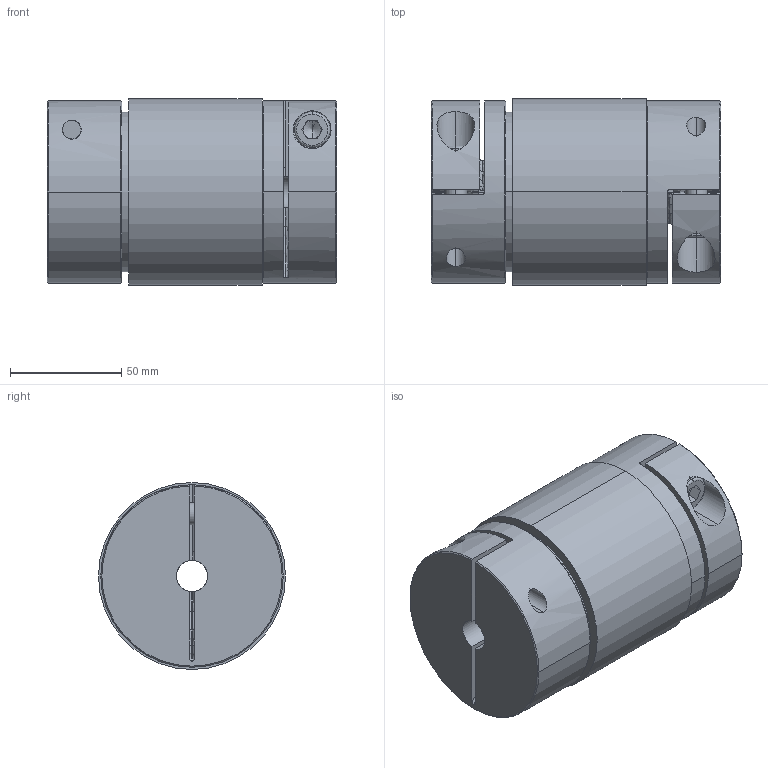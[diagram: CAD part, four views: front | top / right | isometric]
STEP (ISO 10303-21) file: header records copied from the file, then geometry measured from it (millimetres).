
FILE_DESCRIPTION (( 'STEP AP203' ), '1' );
FILE_NAME ('PMK-150.STEP', '2022-08-25T11:19:57', ( '' ), ( '' ), 'SwSTEP 2.0', 'SolidWorks 2019', '' );
FILE_SCHEMA (( 'CONFIG_CONTROL_DESIGN' ));
Length unit declared in the file: millimetre
Products named in the file (5): PMK-ARO 150_011.00000453.300_Kunde; PMK-IRO 150_011.00000452.300_Kunde; socket head cap screw 4762_din_EN ISO 4762 M10 x 30 - 30N; PMK-150; BNK 80-150-2G_011.00000192.100_Kunde
Assembly tree (6 placements, depth 2):
  PMK-150
    BNK 80-150-2G_011.00000192.100_Kunde  x2
    PMK-ARO 150_011.00000453.300_Kunde
    PMK-IRO 150_011.00000452.300_Kunde
    socket head cap screw 4762_din_EN ISO 4762 M10 x 30 - 30N  x2
Bounding box: 130 x 84 x 84 mm (x, y, z)
Volume: 503364.2 mm3; surface area: 128585.4 mm2
Topology: 6 solids, 6 shells, 161 faces, 376 edges, 234 vertices
Faces by surface type: plane 61, cylinder 60, torus 22, cone 18
Entity records: 3569 total; most frequent: CARTESIAN_POINT 727, DIRECTION 524, ORIENTED_EDGE 438, EDGE_CURVE 219, AXIS2_PLACEMENT_3D 218, VERTEX_POINT 139, EDGE_LOOP 116, CIRCLE 112
